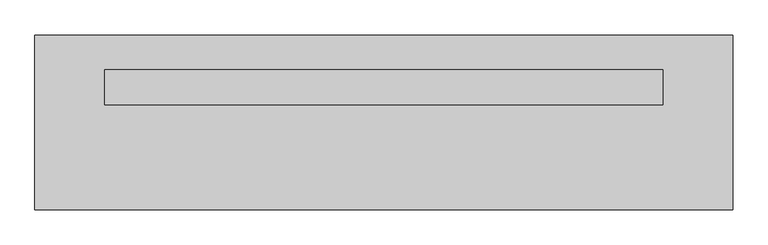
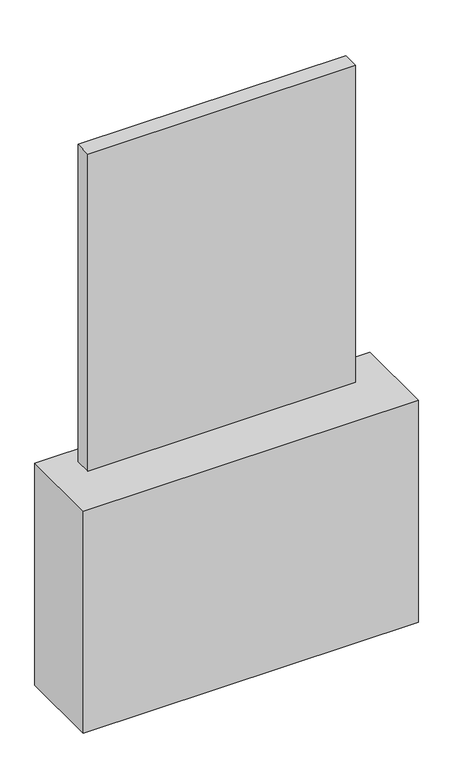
"""IFC4 building model written with IfcOpenShell, lengths in millimetres: furniture geometry, Fu_трюмо_LEG : 1000Х250."""

from ifc_helpers import new_model, si_unit, frame, origin, origin_with_axes, place, context, project, spatial, polyline, outline, extrude, source, transform, mapped, element, save


def furniture_84748105(model_context):
    return source(origin(), model_context, "Body", "SweptSolid", [
        extrude(outline(polyline([(900.0, -100.0), (100.0, -100.0), (100.0, -50.0), (900.0, -50.0), (900.0, -100.0)])), frame((0.0, 0.0, 700.0), z_axis=(0.0, 0.0, 1.0), x_axis=(1.0, 0.0, 0.0)), (0.0, 0.0, 1.0), 1000.0),
        extrude(outline(polyline([(1000.0, 0.0), (1000.0, -250.0), (0.0, -250.0), (0.0, 0.0), (1000.0, 0.0)])), origin_with_axes(), (0.0, 0.0, 1.0), 700.0),
    ])


if __name__ == "__main__":
    model = new_model("IFC4")
    model_context = context("Model", 3, world=origin())
    ifc_project = project(units=[si_unit("LENGTHUNIT", "METRE", prefix="MILLI")], contexts=[model_context])
    site = spatial("IfcSite", under=ifc_project)
    building = spatial("IfcBuilding", under=site)
    placement = place(None, origin())
    furniture_shape = furniture_84748105(model_context)
    element("IfcFurniture", 1, ObjectType="Fu_трюмо_LEG : 1000Х250", at=placement, inside=building, context=model_context, shape_type="MappedRepresentation", body=[
        mapped(furniture_shape, transform((0.0, 0.0, 0.0), x_axis=(1.0, 0.0, 0.0), y_axis=(0.0, 1.0, 0.0), z_axis=(0.0, 0.0, 1.0))),
    ])
    save(model, "model.ifc")
